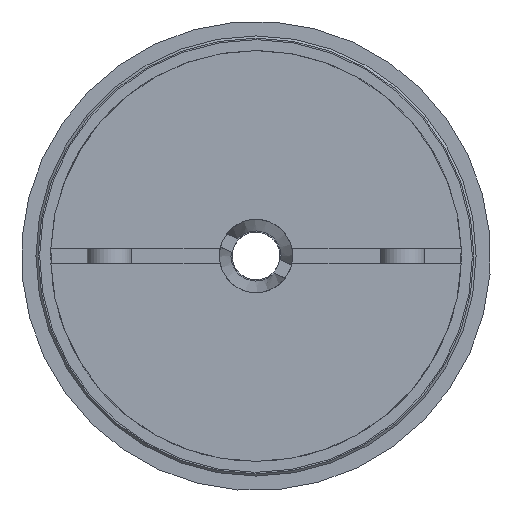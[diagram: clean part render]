
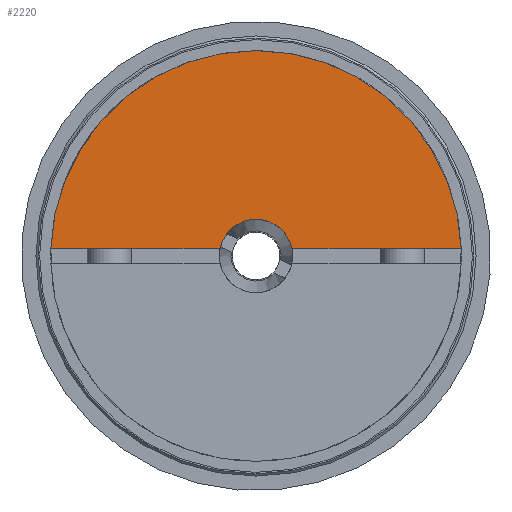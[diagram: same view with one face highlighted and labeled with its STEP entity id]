
A CAD part, left-side view. The second image highlights one B-rep face of the part: STEP entity #2220.
In plain terms, the highlighted planar face has unit normal (-1, 0, 0) as drawn and (0, -1, 0) by its records, which use the part's own axes.
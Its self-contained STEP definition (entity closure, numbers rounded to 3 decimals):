
#2220 = ADVANCED_FACE( '', ( #3111 ), #3112, .F. );
#3111 = FACE_OUTER_BOUND( '', #4491, .T. );
#3112 = PLANE( '', #4492 );
#4491 = EDGE_LOOP( '', ( #5361, #5362, #5363, #5364 ) );
#4492 = AXIS2_PLACEMENT_3D( '', #5365, #5366, #5367 );
#5361 = ORIENTED_EDGE( '', *, *, #6212, .F. );
#5362 = ORIENTED_EDGE( '', *, *, #6213, .F. );
#5363 = ORIENTED_EDGE( '', *, *, #6209, .F. );
#5364 = ORIENTED_EDGE( '', *, *, #6214, .T. );
#5365 = CARTESIAN_POINT( '', ( 0., -27., 0. ) );
#5366 = DIRECTION( '', ( 0., 1., 0. ) );
#5367 = DIRECTION( '', ( 0., 0., 1. ) );
#6209 = EDGE_CURVE( '', #8059, #8061, #8062, .T. );
#6212 = EDGE_CURVE( '', #8066, #8067, #8068, .T. );
#6213 = EDGE_CURVE( '', #8061, #8066, #8069, .T. );
#6214 = EDGE_CURVE( '', #8059, #8067, #8070, .T. );
#8059 = VERTEX_POINT( '', #9135 );
#8061 = VERTEX_POINT( '', #9138 );
#8062 = LINE( '', #9139, #9140 );
#8066 = VERTEX_POINT( '', #9146 );
#8067 = VERTEX_POINT( '', #9147 );
#8068 = LINE( '', #9148, #9149 );
#8069 = CIRCLE( '', #9150, 28. );
#8070 = CIRCLE( '', #9151, 5. );
#9135 = CARTESIAN_POINT( '', ( -4.899, -27., 1. ) );
#9138 = CARTESIAN_POINT( '', ( -27.982, -27., 1. ) );
#9139 = CARTESIAN_POINT( '', ( 0., -27., 1. ) );
#9140 = VECTOR( '', #9506, 1000. );
#9146 = CARTESIAN_POINT( '', ( 27.982, -27., 1. ) );
#9147 = CARTESIAN_POINT( '', ( 4.899, -27., 1. ) );
#9148 = CARTESIAN_POINT( '', ( 0., -27., 1. ) );
#9149 = VECTOR( '', #9509, 1000. );
#9150 = AXIS2_PLACEMENT_3D( '', #9510, #9511, #9512 );
#9151 = AXIS2_PLACEMENT_3D( '', #9513, #9514, #9515 );
#9506 = DIRECTION( '', ( -1., 0., 0. ) );
#9509 = DIRECTION( '', ( -1., 0., 0. ) );
#9510 = CARTESIAN_POINT( '', ( 0., -27., 0. ) );
#9511 = DIRECTION( '', ( 0., 1., 0. ) );
#9512 = DIRECTION( '', ( 1., 0., 0. ) );
#9513 = CARTESIAN_POINT( '', ( 0., -27., 0. ) );
#9514 = DIRECTION( '', ( 0., 1., 0. ) );
#9515 = DIRECTION( '', ( 1., 0., 0. ) );
